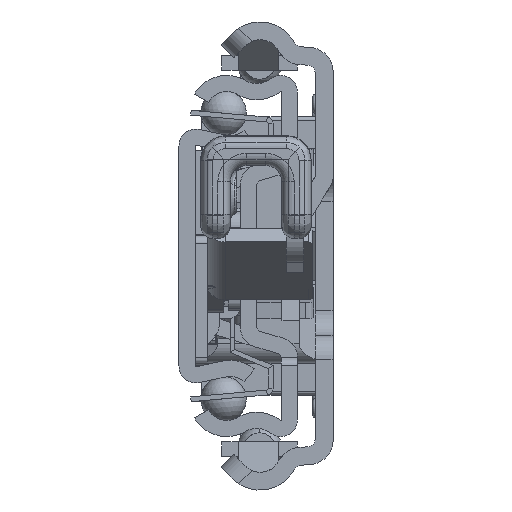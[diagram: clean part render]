
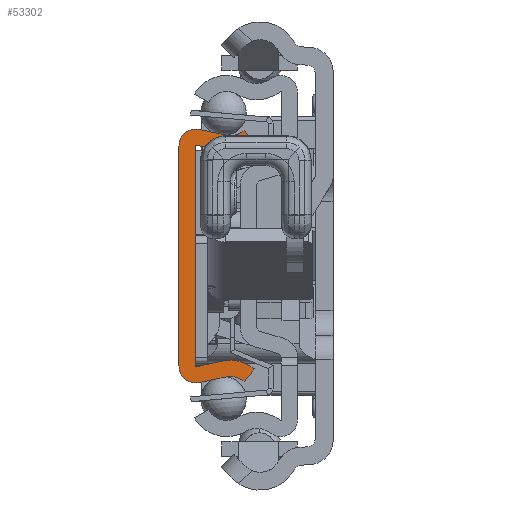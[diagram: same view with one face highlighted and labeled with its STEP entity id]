
A CAD part, left-side view. The second image highlights one B-rep face of the part: STEP entity #53302.
In plain terms, the highlighted planar face has unit normal (-1, 0, 0).
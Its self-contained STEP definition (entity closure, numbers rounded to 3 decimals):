
#48078=CARTESIAN_POINT('',(0.,-6.29,-17.65));
#48079=DIRECTION('',(-1.,0.,0.));
#48080=DIRECTION('',(0.,-0.629,0.778));
#48081=AXIS2_PLACEMENT_3D('',#48078,#48079,#48080);
#48083=DIRECTION('',(0.,0.977,-0.213));
#48084=VECTOR('',#48083,3.218);
#48085=CARTESIAN_POINT('',(0.,-5.692,-14.915));
#48086=LINE('',#48085,#48084);
#48087=CARTESIAN_POINT('',(0.,-2.1,-13.55));
#48088=DIRECTION('',(1.,0.,0.));
#48089=DIRECTION('',(0.,-0.213,-0.977));
#48090=AXIS2_PLACEMENT_3D('',#48087,#48088,#48089);
#48092=DIRECTION('',(0.,0.,1.));
#48093=VECTOR('',#48092,27.1);
#48094=CARTESIAN_POINT('',(0.,0.,-13.55));
#48095=LINE('',#48094,#48093);
#48096=CARTESIAN_POINT('',(0.,-2.1,13.55));
#48097=DIRECTION('',(1.,0.,0.));
#48098=DIRECTION('',(0.,1.,0.));
#48099=AXIS2_PLACEMENT_3D('',#48096,#48097,#48098);
#48101=DIRECTION('',(0.,-0.977,-0.213));
#48102=VECTOR('',#48101,3.218);
#48103=CARTESIAN_POINT('',(0.,-2.548,15.602));
#48104=LINE('',#48103,#48102);
#48105=CARTESIAN_POINT('',(0.,-6.29,17.65));
#48106=DIRECTION('',(-1.,0.,0.));
#48107=DIRECTION('',(0.,0.213,-0.977));
#48108=AXIS2_PLACEMENT_3D('',#48105,#48106,#48107);
#48110=DIRECTION('',(0.,-0.629,-0.778));
#48111=VECTOR('',#48110,2.);
#48112=CARTESIAN_POINT('',(0.,-8.05,15.472));
#48113=LINE('',#48112,#48111);
#48114=CARTESIAN_POINT('',(0.,-6.29,17.65));
#48115=DIRECTION('',(1.,0.,0.));
#48116=DIRECTION('',(0.,-0.629,-0.778));
#48117=AXIS2_PLACEMENT_3D('',#48114,#48115,#48116);
#48119=DIRECTION('',(0.,0.977,0.213));
#48120=VECTOR('',#48119,3.218);
#48121=CARTESIAN_POINT('',(0.,-5.265,12.961));
#48122=LINE('',#48121,#48120);
#48123=CARTESIAN_POINT('',(0.,-2.1,13.55));
#48124=DIRECTION('',(-1.,0.,0.));
#48125=DIRECTION('',(0.,-0.213,0.977));
#48126=AXIS2_PLACEMENT_3D('',#48123,#48124,#48125);
#48128=DIRECTION('',(0.,0.,-1.));
#48129=VECTOR('',#48128,27.1);
#48130=CARTESIAN_POINT('',(0.,-2.,13.55));
#48131=LINE('',#48130,#48129);
#48132=CARTESIAN_POINT('',(0.,-2.1,-13.55));
#48133=DIRECTION('',(-1.,0.,0.));
#48134=DIRECTION('',(0.,1.,0.));
#48135=AXIS2_PLACEMENT_3D('',#48132,#48133,#48134);
#48137=DIRECTION('',(0.,-0.977,0.213));
#48138=VECTOR('',#48137,3.218);
#48139=CARTESIAN_POINT('',(0.,-2.121,-13.648));
#48140=LINE('',#48139,#48138);
#48141=CARTESIAN_POINT('',(0.,-6.29,-17.65));
#48142=DIRECTION('',(1.,0.,0.));
#48143=DIRECTION('',(0.,0.213,0.977));
#48144=AXIS2_PLACEMENT_3D('',#48141,#48142,#48143);
#48146=DIRECTION('',(0.,0.629,-0.778));
#48147=VECTOR('',#48146,2.);
#48148=CARTESIAN_POINT('',(0.,-9.307,-13.917));
#48149=LINE('',#48148,#48147);
#51806=CARTESIAN_POINT('',(0.,-8.05,-15.472));
#51807=CARTESIAN_POINT('',(0.,-5.692,-14.915));
#51808=VERTEX_POINT('',#51806);
#51809=VERTEX_POINT('',#51807);
#51810=CARTESIAN_POINT('',(0.,-2.548,-15.602));
#51811=VERTEX_POINT('',#51810);
#51812=CARTESIAN_POINT('',(0.,0.,-13.55));
#51813=VERTEX_POINT('',#51812);
#51814=CARTESIAN_POINT('',(0.,0.,13.55));
#51815=VERTEX_POINT('',#51814);
#51816=CARTESIAN_POINT('',(0.,-2.548,15.602));
#51817=VERTEX_POINT('',#51816);
#51818=CARTESIAN_POINT('',(0.,-5.692,14.915));
#51819=VERTEX_POINT('',#51818);
#51820=CARTESIAN_POINT('',(0.,-8.05,15.472));
#51821=VERTEX_POINT('',#51820);
#51822=CARTESIAN_POINT('',(0.,-9.307,13.917));
#51823=VERTEX_POINT('',#51822);
#51824=CARTESIAN_POINT('',(0.,-5.265,12.961));
#51825=VERTEX_POINT('',#51824);
#51826=CARTESIAN_POINT('',(0.,-2.121,13.648));
#51827=VERTEX_POINT('',#51826);
#51828=CARTESIAN_POINT('',(0.,-2.,13.55));
#51829=VERTEX_POINT('',#51828);
#51830=CARTESIAN_POINT('',(0.,-2.,-13.55));
#51831=VERTEX_POINT('',#51830);
#51832=CARTESIAN_POINT('',(0.,-2.121,-13.648));
#51833=VERTEX_POINT('',#51832);
#51834=CARTESIAN_POINT('',(0.,-5.265,-12.961));
#51835=VERTEX_POINT('',#51834);
#51836=CARTESIAN_POINT('',(0.,-9.307,-13.917));
#51837=VERTEX_POINT('',#51836);
#53264=CARTESIAN_POINT('',(0.,0.,0.));
#53265=DIRECTION('',(1.,0.,0.));
#53266=DIRECTION('',(0.,-1.,0.));
#53267=AXIS2_PLACEMENT_3D('',#53264,#53265,#53266);
#53268=PLANE('',#53267);
#53270=ORIENTED_EDGE('',*,*,#53269,.T.);
#53272=ORIENTED_EDGE('',*,*,#53271,.T.);
#53274=ORIENTED_EDGE('',*,*,#53273,.T.);
#53275=ORIENTED_EDGE('',*,*,#52858,.T.);
#53277=ORIENTED_EDGE('',*,*,#53276,.T.);
#53279=ORIENTED_EDGE('',*,*,#53278,.T.);
#53281=ORIENTED_EDGE('',*,*,#53280,.T.);
#53283=ORIENTED_EDGE('',*,*,#53282,.T.);
#53285=ORIENTED_EDGE('',*,*,#53284,.T.);
#53287=ORIENTED_EDGE('',*,*,#53286,.T.);
#53289=ORIENTED_EDGE('',*,*,#53288,.T.);
#53291=ORIENTED_EDGE('',*,*,#53290,.T.);
#53293=ORIENTED_EDGE('',*,*,#53292,.T.);
#53295=ORIENTED_EDGE('',*,*,#53294,.T.);
#53297=ORIENTED_EDGE('',*,*,#53296,.T.);
#53299=ORIENTED_EDGE('',*,*,#53298,.T.);
#53300=EDGE_LOOP('',(#53270,#53272,#53274,#53275,#53277,#53279,#53281,#53283,
#53285,#53287,#53289,#53291,#53293,#53295,#53297,#53299));
#53301=FACE_OUTER_BOUND('',#53300,.F.);
#48082=CIRCLE('',#48081,2.8);
#48091=CIRCLE('',#48090,2.1);
#48100=CIRCLE('',#48099,2.1);
#48109=CIRCLE('',#48108,2.8);
#48118=CIRCLE('',#48117,4.8);
#48127=CIRCLE('',#48126,0.1);
#48136=CIRCLE('',#48135,0.1);
#48145=CIRCLE('',#48144,4.8);
#52858=EDGE_CURVE('',#51813,#51815,#48095,.T.);
#53269=EDGE_CURVE('',#51808,#51809,#48082,.T.);
#53271=EDGE_CURVE('',#51809,#51811,#48086,.T.);
#53273=EDGE_CURVE('',#51811,#51813,#48091,.T.);
#53276=EDGE_CURVE('',#51815,#51817,#48100,.T.);
#53278=EDGE_CURVE('',#51817,#51819,#48104,.T.);
#53280=EDGE_CURVE('',#51819,#51821,#48109,.T.);
#53282=EDGE_CURVE('',#51821,#51823,#48113,.T.);
#53284=EDGE_CURVE('',#51823,#51825,#48118,.T.);
#53286=EDGE_CURVE('',#51825,#51827,#48122,.T.);
#53288=EDGE_CURVE('',#51827,#51829,#48127,.T.);
#53290=EDGE_CURVE('',#51829,#51831,#48131,.T.);
#53292=EDGE_CURVE('',#51831,#51833,#48136,.T.);
#53294=EDGE_CURVE('',#51833,#51835,#48140,.T.);
#53296=EDGE_CURVE('',#51835,#51837,#48145,.T.);
#53298=EDGE_CURVE('',#51837,#51808,#48149,.T.);
#53302=ADVANCED_FACE('',(#53301),#53268,.F.);
